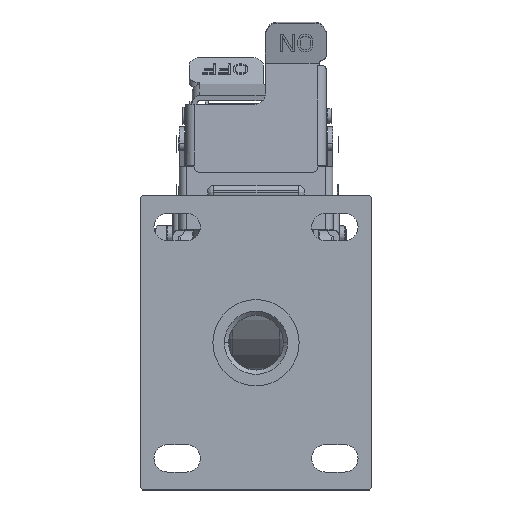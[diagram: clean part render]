
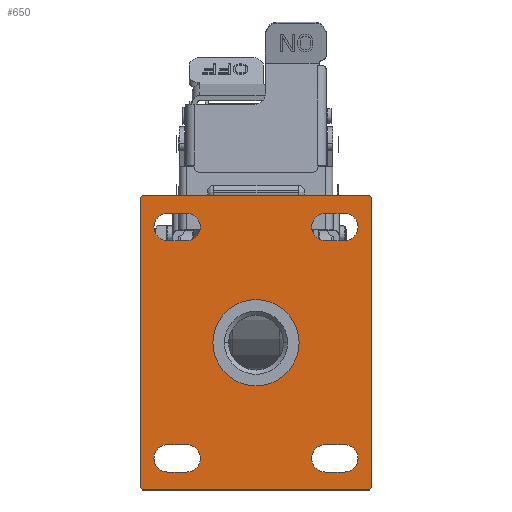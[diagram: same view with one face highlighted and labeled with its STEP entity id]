
A CAD part, top view. The second image highlights one B-rep face of the part: STEP entity #650.
In plain terms, the highlighted planar face has unit normal (0, 0, 1).
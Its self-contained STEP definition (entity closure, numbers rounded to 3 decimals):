
#150=CARTESIAN_POINT('',(0.,0.,8.));
#151=DIRECTION('',(0.,0.,-1.));
#152=DIRECTION('',(1.,0.,0.));
#153=AXIS2_PLACEMENT_3D('',#150,#151,#152);
#155=CARTESIAN_POINT('',(0.,0.,8.));
#156=DIRECTION('',(0.,0.,-1.));
#157=DIRECTION('',(-1.,0.,0.));
#158=AXIS2_PLACEMENT_3D('',#155,#156,#157);
#160=DIRECTION('',(1.,0.,0.));
#161=VECTOR('',#160,9.);
#162=CARTESIAN_POINT('',(33.,61.5,8.));
#163=LINE('',#162,#161);
#164=CARTESIAN_POINT('',(33.,55.,8.));
#165=DIRECTION('',(0.,0.,-1.));
#166=DIRECTION('',(0.,-1.,0.));
#167=AXIS2_PLACEMENT_3D('',#164,#165,#166);
#169=DIRECTION('',(-1.,0.,0.));
#170=VECTOR('',#169,9.);
#171=CARTESIAN_POINT('',(42.,48.5,8.));
#172=LINE('',#171,#170);
#173=CARTESIAN_POINT('',(42.,55.,8.));
#174=DIRECTION('',(0.,0.,-1.));
#175=DIRECTION('',(0.,1.,0.));
#176=AXIS2_PLACEMENT_3D('',#173,#174,#175);
#178=DIRECTION('',(0.,1.,0.));
#179=VECTOR('',#178,138.);
#180=CARTESIAN_POINT('',(55.,-69.,8.));
#181=LINE('',#180,#179);
#182=DIRECTION('',(0.707,0.707,0.));
#183=VECTOR('',#182,1.414);
#184=CARTESIAN_POINT('',(54.,-70.,8.));
#185=LINE('',#184,#183);
#186=DIRECTION('',(1.,0.,0.));
#187=VECTOR('',#186,108.);
#188=CARTESIAN_POINT('',(-54.,-70.,8.));
#189=LINE('',#188,#187);
#190=DIRECTION('',(0.707,-0.707,0.));
#191=VECTOR('',#190,1.414);
#192=CARTESIAN_POINT('',(-55.,-69.,8.));
#193=LINE('',#192,#191);
#194=DIRECTION('',(0.,-1.,0.));
#195=VECTOR('',#194,138.);
#196=CARTESIAN_POINT('',(-55.,69.,8.));
#197=LINE('',#196,#195);
#198=DIRECTION('',(-0.707,-0.707,0.));
#199=VECTOR('',#198,1.414);
#200=CARTESIAN_POINT('',(-54.,70.,8.));
#201=LINE('',#200,#199);
#202=DIRECTION('',(-1.,0.,0.));
#203=VECTOR('',#202,108.);
#204=CARTESIAN_POINT('',(54.,70.,8.));
#205=LINE('',#204,#203);
#206=DIRECTION('',(-0.707,0.707,0.));
#207=VECTOR('',#206,1.414);
#208=CARTESIAN_POINT('',(55.,69.,8.));
#209=LINE('',#208,#207);
#210=DIRECTION('',(1.,0.,0.));
#211=VECTOR('',#210,9.);
#212=CARTESIAN_POINT('',(-42.,-48.5,8.));
#213=LINE('',#212,#211);
#214=CARTESIAN_POINT('',(-42.,-55.,8.));
#215=DIRECTION('',(0.,0.,-1.));
#216=DIRECTION('',(0.,-1.,0.));
#217=AXIS2_PLACEMENT_3D('',#214,#215,#216);
#219=DIRECTION('',(-1.,0.,0.));
#220=VECTOR('',#219,9.);
#221=CARTESIAN_POINT('',(-33.,-61.5,8.));
#222=LINE('',#221,#220);
#223=CARTESIAN_POINT('',(-33.,-55.,8.));
#224=DIRECTION('',(0.,0.,-1.));
#225=DIRECTION('',(0.,1.,0.));
#226=AXIS2_PLACEMENT_3D('',#223,#224,#225);
#228=CARTESIAN_POINT('',(-33.,55.,8.));
#229=DIRECTION('',(0.,0.,-1.));
#230=DIRECTION('',(0.,1.,0.));
#231=AXIS2_PLACEMENT_3D('',#228,#229,#230);
#233=DIRECTION('',(1.,0.,0.));
#234=VECTOR('',#233,9.);
#235=CARTESIAN_POINT('',(-42.,61.5,8.));
#236=LINE('',#235,#234);
#237=CARTESIAN_POINT('',(-42.,55.,8.));
#238=DIRECTION('',(0.,0.,-1.));
#239=DIRECTION('',(0.,-1.,0.));
#240=AXIS2_PLACEMENT_3D('',#237,#238,#239);
#242=DIRECTION('',(-1.,0.,0.));
#243=VECTOR('',#242,9.);
#244=CARTESIAN_POINT('',(-33.,48.5,8.));
#245=LINE('',#244,#243);
#246=CARTESIAN_POINT('',(33.,-55.,8.));
#247=DIRECTION('',(0.,0.,-1.));
#248=DIRECTION('',(0.,-1.,0.));
#249=AXIS2_PLACEMENT_3D('',#246,#247,#248);
#251=DIRECTION('',(-1.,0.,0.));
#252=VECTOR('',#251,9.);
#253=CARTESIAN_POINT('',(42.,-61.5,8.));
#254=LINE('',#253,#252);
#255=CARTESIAN_POINT('',(42.,-55.,8.));
#256=DIRECTION('',(0.,0.,-1.));
#257=DIRECTION('',(0.,1.,0.));
#258=AXIS2_PLACEMENT_3D('',#255,#256,#257);
#260=DIRECTION('',(1.,0.,0.));
#261=VECTOR('',#260,9.);
#262=CARTESIAN_POINT('',(33.,-48.5,8.));
#263=LINE('',#262,#261);
#412=CARTESIAN_POINT('',(20.5,0.,8.));
#413=CARTESIAN_POINT('',(-20.5,0.,8.));
#414=VERTEX_POINT('',#412);
#415=VERTEX_POINT('',#413);
#416=CARTESIAN_POINT('',(33.,61.5,8.));
#417=CARTESIAN_POINT('',(42.,61.5,8.));
#418=VERTEX_POINT('',#416);
#419=VERTEX_POINT('',#417);
#420=CARTESIAN_POINT('',(42.,48.5,8.));
#421=VERTEX_POINT('',#420);
#422=CARTESIAN_POINT('',(33.,48.5,8.));
#423=VERTEX_POINT('',#422);
#424=CARTESIAN_POINT('',(55.,-69.,8.));
#425=CARTESIAN_POINT('',(55.,69.,8.));
#426=VERTEX_POINT('',#424);
#427=VERTEX_POINT('',#425);
#428=CARTESIAN_POINT('',(54.,70.,8.));
#429=VERTEX_POINT('',#428);
#430=CARTESIAN_POINT('',(-54.,70.,8.));
#431=VERTEX_POINT('',#430);
#432=CARTESIAN_POINT('',(-55.,69.,8.));
#433=VERTEX_POINT('',#432);
#434=CARTESIAN_POINT('',(-55.,-69.,8.));
#435=VERTEX_POINT('',#434);
#436=CARTESIAN_POINT('',(-54.,-70.,8.));
#437=VERTEX_POINT('',#436);
#438=CARTESIAN_POINT('',(54.,-70.,8.));
#439=VERTEX_POINT('',#438);
#440=CARTESIAN_POINT('',(-42.,-48.5,8.));
#441=CARTESIAN_POINT('',(-33.,-48.5,8.));
#442=VERTEX_POINT('',#440);
#443=VERTEX_POINT('',#441);
#444=CARTESIAN_POINT('',(-33.,-61.5,8.));
#445=VERTEX_POINT('',#444);
#446=CARTESIAN_POINT('',(-42.,-61.5,8.));
#447=VERTEX_POINT('',#446);
#448=CARTESIAN_POINT('',(-33.,61.5,8.));
#449=CARTESIAN_POINT('',(-33.,48.5,8.));
#450=VERTEX_POINT('',#448);
#451=VERTEX_POINT('',#449);
#452=CARTESIAN_POINT('',(-42.,48.5,8.));
#453=VERTEX_POINT('',#452);
#454=CARTESIAN_POINT('',(-42.,61.5,8.));
#455=VERTEX_POINT('',#454);
#456=CARTESIAN_POINT('',(33.,-61.5,8.));
#457=CARTESIAN_POINT('',(33.,-48.5,8.));
#458=VERTEX_POINT('',#456);
#459=VERTEX_POINT('',#457);
#460=CARTESIAN_POINT('',(42.,-48.5,8.));
#461=VERTEX_POINT('',#460);
#462=CARTESIAN_POINT('',(42.,-61.5,8.));
#463=VERTEX_POINT('',#462);
#583=CARTESIAN_POINT('',(0.,0.,8.));
#584=DIRECTION('',(0.,0.,1.));
#585=DIRECTION('',(1.,0.,0.));
#586=AXIS2_PLACEMENT_3D('',#583,#584,#585);
#587=PLANE('',#586);
#589=ORIENTED_EDGE('',*,*,#588,.F.);
#591=ORIENTED_EDGE('',*,*,#590,.F.);
#593=ORIENTED_EDGE('',*,*,#592,.F.);
#595=ORIENTED_EDGE('',*,*,#594,.F.);
#597=ORIENTED_EDGE('',*,*,#596,.F.);
#599=ORIENTED_EDGE('',*,*,#598,.F.);
#601=ORIENTED_EDGE('',*,*,#600,.F.);
#603=ORIENTED_EDGE('',*,*,#602,.F.);
#604=EDGE_LOOP('',(#589,#591,#593,#595,#597,#599,#601,#603));
#605=FACE_OUTER_BOUND('',#604,.F.);
#607=ORIENTED_EDGE('',*,*,#606,.F.);
#609=ORIENTED_EDGE('',*,*,#608,.F.);
#611=ORIENTED_EDGE('',*,*,#610,.F.);
#613=ORIENTED_EDGE('',*,*,#612,.F.);
#614=EDGE_LOOP('',(#607,#609,#611,#613));
#615=FACE_BOUND('',#614,.F.);
#616=ORIENTED_EDGE('',*,*,#549,.F.);
#617=ORIENTED_EDGE('',*,*,#570,.F.);
#618=EDGE_LOOP('',(#616,#617));
#619=FACE_BOUND('',#618,.F.);
#621=ORIENTED_EDGE('',*,*,#620,.F.);
#623=ORIENTED_EDGE('',*,*,#622,.F.);
#625=ORIENTED_EDGE('',*,*,#624,.F.);
#627=ORIENTED_EDGE('',*,*,#626,.F.);
#628=EDGE_LOOP('',(#621,#623,#625,#627));
#629=FACE_BOUND('',#628,.F.);
#631=ORIENTED_EDGE('',*,*,#630,.F.);
#633=ORIENTED_EDGE('',*,*,#632,.F.);
#635=ORIENTED_EDGE('',*,*,#634,.F.);
#637=ORIENTED_EDGE('',*,*,#636,.F.);
#638=EDGE_LOOP('',(#631,#633,#635,#637));
#639=FACE_BOUND('',#638,.F.);
#641=ORIENTED_EDGE('',*,*,#640,.F.);
#643=ORIENTED_EDGE('',*,*,#642,.F.);
#645=ORIENTED_EDGE('',*,*,#644,.F.);
#647=ORIENTED_EDGE('',*,*,#646,.F.);
#648=EDGE_LOOP('',(#641,#643,#645,#647));
#649=FACE_BOUND('',#648,.F.);
#154=CIRCLE('',#153,20.5);
#159=CIRCLE('',#158,20.5);
#168=CIRCLE('',#167,6.5);
#177=CIRCLE('',#176,6.5);
#218=CIRCLE('',#217,6.5);
#227=CIRCLE('',#226,6.5);
#232=CIRCLE('',#231,6.5);
#241=CIRCLE('',#240,6.5);
#250=CIRCLE('',#249,6.5);
#259=CIRCLE('',#258,6.5);
#549=EDGE_CURVE('',#414,#415,#154,.T.);
#570=EDGE_CURVE('',#415,#414,#159,.T.);
#588=EDGE_CURVE('',#426,#427,#181,.T.);
#590=EDGE_CURVE('',#439,#426,#185,.T.);
#592=EDGE_CURVE('',#437,#439,#189,.T.);
#594=EDGE_CURVE('',#435,#437,#193,.T.);
#596=EDGE_CURVE('',#433,#435,#197,.T.);
#598=EDGE_CURVE('',#431,#433,#201,.T.);
#600=EDGE_CURVE('',#429,#431,#205,.T.);
#602=EDGE_CURVE('',#427,#429,#209,.T.);
#606=EDGE_CURVE('',#418,#419,#163,.T.);
#608=EDGE_CURVE('',#423,#418,#168,.T.);
#610=EDGE_CURVE('',#421,#423,#172,.T.);
#612=EDGE_CURVE('',#419,#421,#177,.T.);
#620=EDGE_CURVE('',#442,#443,#213,.T.);
#622=EDGE_CURVE('',#447,#442,#218,.T.);
#624=EDGE_CURVE('',#445,#447,#222,.T.);
#626=EDGE_CURVE('',#443,#445,#227,.T.);
#630=EDGE_CURVE('',#450,#451,#232,.T.);
#632=EDGE_CURVE('',#455,#450,#236,.T.);
#634=EDGE_CURVE('',#453,#455,#241,.T.);
#636=EDGE_CURVE('',#451,#453,#245,.T.);
#640=EDGE_CURVE('',#458,#459,#250,.T.);
#642=EDGE_CURVE('',#463,#458,#254,.T.);
#644=EDGE_CURVE('',#461,#463,#259,.T.);
#646=EDGE_CURVE('',#459,#461,#263,.T.);
#650=ADVANCED_FACE('',(#605,#615,#619,#629,#639,#649),#587,.T.);
